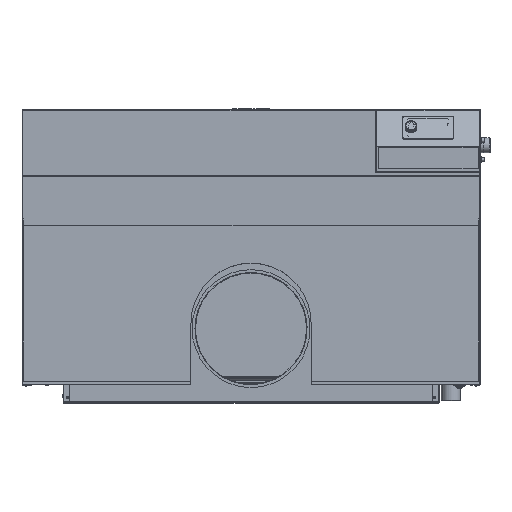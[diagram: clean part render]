
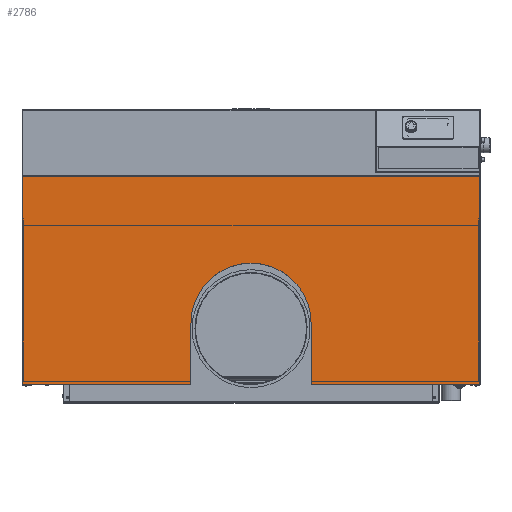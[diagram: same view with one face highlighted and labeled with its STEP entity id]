
A CAD part, top view. The second image highlights one B-rep face of the part: STEP entity #2786.
In plain terms, the highlighted planar face has unit normal (0, 0, 1).
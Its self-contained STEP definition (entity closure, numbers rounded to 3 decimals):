
#2786=ADVANCED_FACE('',(#28767),#28769,.T.);
#28767=FACE_BOUND('',#28768,.T.);
#28768=EDGE_LOOP('',(#78947,#78948,#78949,#78950,#78951,#78952,#78953,#78954));
#28769=PLANE('',#28770);
#28770=AXIS2_PLACEMENT_3D('',#28771,#28772,#28773);
#28771=CARTESIAN_POINT('',(0.,-43.5,870.5));
#28772=DIRECTION('',(0.,0.,1.));
#28773=DIRECTION('',(1.,0.,0.));
#78947=ORIENTED_EDGE('',*,*,#103533,.T.);
#78948=ORIENTED_EDGE('',*,*,#103534,.T.);
#78949=ORIENTED_EDGE('',*,*,#103535,.T.);
#78950=ORIENTED_EDGE('',*,*,#103536,.T.);
#78951=ORIENTED_EDGE('',*,*,#102634,.T.);
#78952=ORIENTED_EDGE('',*,*,#102616,.T.);
#78953=ORIENTED_EDGE('',*,*,#103537,.T.);
#78954=ORIENTED_EDGE('',*,*,#103538,.T.);
#102616=EDGE_CURVE('',#122083,#122081,#122084,.T.);
#102634=EDGE_CURVE('',#122108,#122083,#122111,.T.);
#103533=EDGE_CURVE('',#123648,#123649,#123650,.F.);
#103534=EDGE_CURVE('',#123649,#123651,#123652,.F.);
#103535=EDGE_CURVE('',#123651,#122404,#123653,.F.);
#103536=EDGE_CURVE('',#122404,#122108,#123654,.T.);
#103537=EDGE_CURVE('',#122081,#123655,#123656,.T.);
#103538=EDGE_CURVE('',#123655,#123648,#123657,.T.);
#122081=VERTEX_POINT('',#166346);
#122083=VERTEX_POINT('',#166364);
#122084=LINE('',#166365,#166366);
#122108=VERTEX_POINT('',#166481);
#122111=LINE('',#166507,#166508);
#122404=VERTEX_POINT('',#167774);
#123648=VERTEX_POINT('',#171802);
#123649=VERTEX_POINT('',#171803);
#123650=LINE('',#171804,#171805);
#123651=VERTEX_POINT('',#171807);
#123652=CIRCLE('',#171808,187.5);
#123653=LINE('',#171812,#171813);
#123654=LINE('',#171815,#171816);
#123655=VERTEX_POINT('',#171818);
#123656=LINE('',#171819,#171820);
#123657=LINE('',#171822,#171823);
#166346=CARTESIAN_POINT('',(-713.,280.,870.5));
#166364=CARTESIAN_POINT('',(713.,280.,870.5));
#166365=CARTESIAN_POINT('',(713.,280.,870.5));
#166366=VECTOR('',#166367,1.);
#166367=DIRECTION('',(-1.,0.,0.));
#166481=CARTESIAN_POINT('',(713.,-367.,870.5));
#166507=CARTESIAN_POINT('',(713.,-367.,870.5));
#166508=VECTOR('',#166509,1.);
#166509=DIRECTION('',(0.,1.,0.));
#167774=CARTESIAN_POINT('',(187.5,-367.,870.5));
#171802=CARTESIAN_POINT('',(-187.5,-367.,870.5));
#171803=CARTESIAN_POINT('',(-187.5,-177.,870.5));
#171804=CARTESIAN_POINT('',(-187.5,-177.,870.5));
#171805=VECTOR('',#171806,1.);
#171806=DIRECTION('',(0.,-1.,0.));
#171807=CARTESIAN_POINT('',(187.5,-177.,870.5));
#171808=AXIS2_PLACEMENT_3D('',#171809,#171810,#171811);
#171809=CARTESIAN_POINT('',(0.,-177.,870.5));
#171810=DIRECTION('',(0.,0.,1.));
#171811=DIRECTION('',(1.,0.,0.));
#171812=CARTESIAN_POINT('',(187.5,-367.,870.5));
#171813=VECTOR('',#171814,1.);
#171814=DIRECTION('',(0.,1.,0.));
#171815=CARTESIAN_POINT('',(187.5,-367.,870.5));
#171816=VECTOR('',#171817,1.);
#171817=DIRECTION('',(1.,0.,0.));
#171818=CARTESIAN_POINT('',(-713.,-367.,870.5));
#171819=CARTESIAN_POINT('',(-713.,280.,870.5));
#171820=VECTOR('',#171821,1.);
#171821=DIRECTION('',(0.,-1.,0.));
#171822=CARTESIAN_POINT('',(-713.,-367.,870.5));
#171823=VECTOR('',#171824,1.);
#171824=DIRECTION('',(1.,0.,0.));
